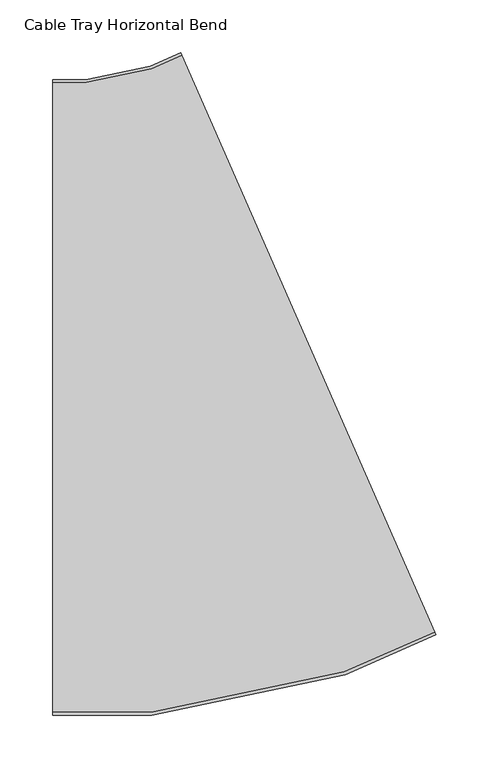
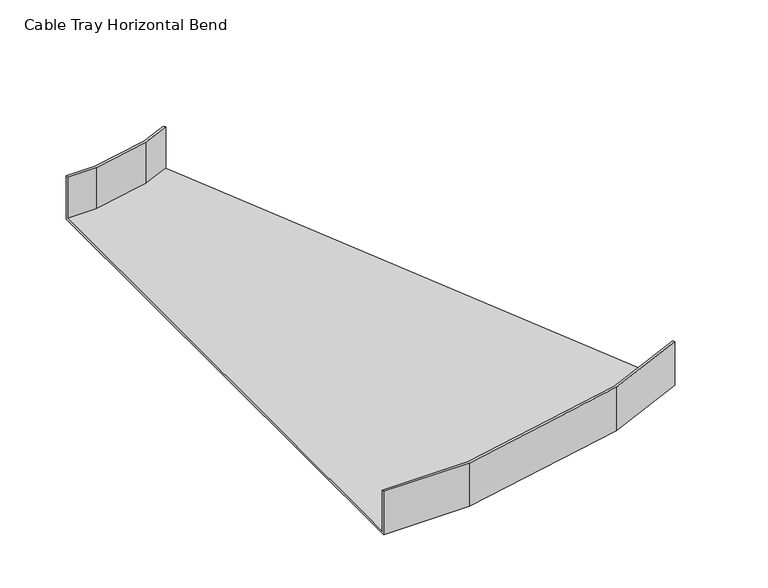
"""IFC4 building model written with IfcOpenShell, lengths in millimetres: cable carrier fitting geometry, Cable Tray Horizontal Bend : ELEC_SUB_CT_N2402."""

import ifcopenshell
import ifcopenshell.guid

model = None  # the IFC model being written
_history = None  # IfcOwnerHistory: only IFC2X3 demands one
_inside = {}  # id of a spatial element -> (the spatial element, [elements in it])
_under = {}  # id of a project, library or spatial element -> (it, [spatial elements below it])
_declared = {}  # id of a project -> (the project, [libraries it declares])
_typed = {}  # id of a type object -> (the type object, [elements of that type])
_made_of = {}  # id of a material, layer set ... -> (it, [elements and type objects made of it])


def new_model(schema):
    """Start an empty IFC model of exactly this schema.

    Asked for "IFC4X3", IfcOpenShell would pick the latest addendum, in which some entities
    have other attributes; the version numbers below select the first issue.
    IFC2X3 requires an IfcOwnerHistory on every rooted entity: one is made here for all.
    """
    global model, _history
    if schema == "IFC4X3":
        model = ifcopenshell.file(schema_version=(4, 3, 0, 0))
    else:
        model = ifcopenshell.file(schema=schema)
    _inside.clear()
    _under.clear()
    _declared.clear()
    _typed.clear()
    _made_of.clear()
    _history = None
    if model.schema == "IFC2X3":
        org = make("IfcOrganization", Name="unknown")
        user = make(
            "IfcPersonAndOrganization",
            ThePerson=make("IfcPerson", FamilyName="unknown"),
            TheOrganization=org,
        )
        app = make(
            "IfcApplication",
            ApplicationDeveloper=org,
            Version="unknown",
            ApplicationFullName="unknown",
            ApplicationIdentifier="unknown",
        )
        _history = make(
            "IfcOwnerHistory",
            OwningUser=user,
            OwningApplication=app,
            ChangeAction="ADDED",
            CreationDate=0,
        )
    return model


def make(cls, **values):
    """One entity of the class cls with the attributes given. An attribute that is None is left unset."""
    return model.create_entity(
        cls, **{name: value for name, value in values.items() if value is not None}
    )


def rooted(cls, **values):
    """An entity with a GlobalId (a new one), such as an element, a storey or a relation."""
    return make(cls, GlobalId=ifcopenshell.guid.new(), OwnerHistory=_history, **values)


def si_unit(unit_type, name, prefix=None):
    """IfcSIUnit, for example si_unit("LENGTHUNIT", "METRE", prefix="MILLI")."""
    return make("IfcSIUnit", UnitType=unit_type, Prefix=prefix, Name=name)


def assignment(units):
    """IfcUnitAssignment: the units of a project."""
    return None if units is None else make("IfcUnitAssignment", Units=units)


def point(xyz):
    """IfcCartesianPoint."""
    return None if xyz is None else make("IfcCartesianPoint", Coordinates=xyz)


def direction(xyz):
    """IfcDirection."""
    return None if xyz is None else make("IfcDirection", DirectionRatios=xyz)


def frame(location, z_axis=None, x_axis=None):
    """IfcAxis2Placement3D, a coordinate frame: its origin and axes. An axis left out is left unset."""
    return make(
        "IfcAxis2Placement3D",
        Location=point(location),
        Axis=direction(z_axis),
        RefDirection=direction(x_axis),
    )


def origin():
    """The frame at (0, 0, 0) with its axes left unset."""
    return frame((0.0, 0.0, 0.0))


def place(relative_to, where):
    """IfcLocalPlacement: puts the frame where relative to a parent placement (None: the world)."""
    return make(
        "IfcLocalPlacement", PlacementRelTo=relative_to, RelativePlacement=where
    )


def context(
    kind, dimensions, precision=None, world=None, true_north=None, identifier=None
):
    """IfcGeometricRepresentationContext, for example the 3D "Model" context."""
    return make(
        "IfcGeometricRepresentationContext",
        ContextIdentifier=identifier,
        ContextType=kind,
        CoordinateSpaceDimension=dimensions,
        Precision=precision,
        WorldCoordinateSystem=world,
        TrueNorth=true_north,
    )


def project(units=None, contexts=None):
    """IfcProject with its units and contexts."""
    return rooted(
        "IfcProject",
        Name="project",
        RepresentationContexts=contexts,
        UnitsInContext=assignment(units),
    )


def spatial(cls, under=None, at=None, **own):
    """A site, building, storey or space (cls), placed at a placement, below another one or the project."""
    s = rooted(cls, ObjectPlacement=at, **own)
    if under is not None:
        _under.setdefault(under.id(), (under, []))[1].append(s)
    return s


def faces_of(points, faces, orient=None, outer=None):
    """IfcFace entities. A face is a list of loops; a loop is a list of indices into points, from 0.

    orient and outer hold one flag for each loop. By default every Orientation is true, the
    first loop of a face is its IfcFaceOuterBound and the others are IfcFaceBound.
    """
    made = []
    for i, loops in enumerate(faces):
        bounds = []
        for j, loop in enumerate(loops):
            is_outer = j == 0 if outer is None else outer[i][j]
            bounds.append(
                make(
                    "IfcFaceOuterBound" if is_outer else "IfcFaceBound",
                    Bound=make("IfcPolyLoop", Polygon=[points[k] for k in loop]),
                    Orientation=True if orient is None else orient[i][j],
                )
            )
        made.append(make("IfcFace", Bounds=bounds))
    return made


def faceted_brep(points, faces, orient=None, outer=None, voids=None):
    """IfcFacetedBrep: a solid bounded by flat faces; with voids (closed shells), ...WithVoids."""
    shared = [point(p) for p in points]
    hull = make("IfcClosedShell", CfsFaces=faces_of(shared, faces, orient, outer))
    if voids is None:
        return make("IfcFacetedBrep", Outer=hull)
    return make(
        "IfcFacetedBrepWithVoids",
        Outer=hull,
        Voids=[
            make(cls, CfsFaces=faces_of(shared, fs, o, b)) for cls, fs, o, b in voids
        ],
    )


def shape(context_of_items, identifier, shape_type, items):
    """IfcShapeRepresentation: the items that make up one representation, for example the "Body"."""
    return make(
        "IfcShapeRepresentation",
        ContextOfItems=context_of_items,
        RepresentationIdentifier=identifier,
        RepresentationType=shape_type,
        Items=items,
    )


def source(mapping_origin, context_of_items, identifier, shape_type, items):
    """IfcRepresentationMap: a shape defined once, which mapped items show again and again."""
    return make(
        "IfcRepresentationMap",
        MappingOrigin=mapping_origin,
        MappedRepresentation=shape(context_of_items, identifier, shape_type, items),
    )


def transform(
    local_origin,
    x_axis=None,
    y_axis=None,
    z_axis=None,
    scale=None,
    scale2=None,
    scale3=None,
    uniform=True,
):
    """IfcCartesianTransformationOperator3D, or its non-uniform kind. x_axis, y_axis, z_axis: its Axis1, 2, 3."""
    if uniform:
        return make(
            "IfcCartesianTransformationOperator3D",
            Axis1=direction(x_axis),
            Axis2=direction(y_axis),
            LocalOrigin=point(local_origin),
            Scale=scale,
            Axis3=direction(z_axis),
        )
    return make(
        "IfcCartesianTransformationOperator3DnonUniform",
        Axis1=direction(x_axis),
        Axis2=direction(y_axis),
        LocalOrigin=point(local_origin),
        Scale=scale,
        Axis3=direction(z_axis),
        Scale2=scale2,
        Scale3=scale3,
    )


def mapped(mapping_source, mapping_target):
    """IfcMappedItem: shows the shape of a source again, moved by a transform."""
    return make(
        "IfcMappedItem", MappingSource=mapping_source, MappingTarget=mapping_target
    )


def made_of(thing, what):
    """Note that an element or type object is made of a material, layer set ...; save() writes the relation."""
    if what is not None:
        _made_of.setdefault(what.id(), (what, []))[1].append(thing)
    return thing


def element(
    cls,
    number,
    at=None,
    inside=None,
    cuts=None,
    type_object=None,
    material=None,
    context=None,
    identifier="Body",
    shape_type=None,
    held_by="IfcProductDefinitionShape",
    body=None,
    shapes=None,
    **own,
):
    """One element of the class cls, such as IfcWall. Its Tag is "e" and its number.

    at: its placement. inside: the storey or other place that contains it. cuts: it is an
    opening in that element (IfcRelVoidsElement). A single representation is given by context,
    identifier, shape_type and body (its items); several are given by shapes. held_by: the class
    of the entity that holds the representations. save() writes the other relations.
    """
    e = rooted(cls, Tag="e%d" % number, ObjectPlacement=at, **own)
    if body is not None:
        shapes = [shape(context, identifier, shape_type, body)]
    if shapes is not None:
        e.Representation = make(held_by, Representations=shapes)
    if inside is not None:
        _inside.setdefault(inside.id(), (inside, []))[1].append(e)
    if cuts is not None:
        rooted(
            "IfcRelVoidsElement", RelatingBuildingElement=cuts, RelatedOpeningElement=e
        )
    if type_object is not None:
        _typed.setdefault(type_object.id(), (type_object, []))[1].append(e)
    return made_of(e, material)


def aggregate(whole, parts):
    """IfcRelAggregates: a whole, such as a stair, and the parts it consists of."""
    return rooted("IfcRelAggregates", RelatingObject=whole, RelatedObjects=parts)


def save(model, path):
    """Write the relations noted so far, then the file.

    IfcRelAggregates (storeys below a building ...), IfcRelContainedInSpatialStructure (elements
    in a storey), IfcRelDefinesByType, IfcRelAssociatesMaterial and IfcRelDeclares: one each for
    every whole, place, type object, material and project.
    """
    for whole, parts in _under.values():
        aggregate(whole, parts)
    for where, things in _inside.values():
        rooted(
            "IfcRelContainedInSpatialStructure",
            RelatedElements=things,
            RelatingStructure=where,
        )
    for kind, things in _typed.values():
        rooted("IfcRelDefinesByType", RelatedObjects=things, RelatingType=kind)
    for what, things in _made_of.values():
        rooted("IfcRelAssociatesMaterial", RelatedObjects=things, RelatingMaterial=what)
    for by, libraries in _declared.values():
        rooted("IfcRelDeclares", RelatingContext=by, RelatedDefinitions=libraries)
    model.write(path)


def cable_tray_horizontal_bend_5669cde8(model_context):
    return source(origin(), model_context, "Body", "Brep", [
        faceted_brep([(-125.749013, -300.0, -25.0), (-125.749013, -300.0, 25.0), (-125.749013, -297.46, 25.0), (-125.749013, -297.46, -22.46), (-125.749013, 297.46, -22.46), (-125.749013, 297.46, 25.0), (-125.749013, 300.0, 25.0), (-125.749013, 300.0, -25.0), (235.6248648, -224.2626526, -25.0), (-5.2910537, 325.2457825, -25.0), (-5.2910537, 325.2457825, 25.0), (-4.2711763, 322.9195301, 25.0), (-4.2711763, 322.9195301, -22.46), (234.6049874, -221.9364002, -22.46), (234.6049874, -221.9364002, 25.0), (235.6248648, -224.2626526, 25.0), (-32.4507627, -300.0, -25.0), (-32.4507627, -300.0, 25.0), (150.1779057, -261.7243754, 25.0), (149.3991786, -259.2923977, 25.0), (-32.7140711, -297.46, 25.0), (-32.7140711, -297.46, -22.46), (149.3991786, -259.2923977, -22.46), (-32.9946463, 310.3265639, -22.46), (-94.3862878, 297.46, -22.46), (-94.3862878, 297.46, 25.0), (-32.9946463, 310.3265639, 25.0), (-33.7733734, 312.7585415, 25.0), (-94.6495962, 300.0, 25.0), (-94.6495962, 300.0, -25.0), (-33.7733734, 312.7585415, -25.0), (150.1779057, -261.7243754, -25.0)], [[[0, 1, 2, 3, 4, 5, 6, 7]], [[8, 9, 10, 11, 12, 13, 14, 15]], [[1, 0, 16, 17]], [[2, 1, 17, 18, 15, 14, 19, 20]], [[3, 2, 20, 21]], [[4, 3, 21, 22, 13, 12, 23, 24]], [[5, 4, 24, 25]], [[6, 5, 25, 26, 11, 10, 27, 28]], [[7, 6, 28, 29]], [[0, 7, 29, 30, 9, 8, 31, 16]], [[17, 16, 31, 18]], [[21, 20, 19, 22]], [[25, 24, 23, 26]], [[29, 28, 27, 30]], [[18, 31, 8, 15]], [[22, 19, 14, 13]], [[26, 23, 12, 11]], [[30, 27, 10, 9]]]),
    ])


if __name__ == "__main__":
    model = new_model("IFC4")
    model_context = context("Model", 3, world=origin())
    ifc_project = project(units=[si_unit("LENGTHUNIT", "METRE", prefix="MILLI")], contexts=[model_context])
    site = spatial("IfcSite", under=ifc_project)
    building = spatial("IfcBuilding", under=site)
    placement = place(None, origin())
    cable_tray_horizontal_bend_shape = cable_tray_horizontal_bend_5669cde8(model_context)
    element("IfcCableCarrierFitting", 1, ObjectType="Cable Tray Horizontal Bend : ELEC_SUB_CT_N2402", at=placement, inside=building, context=model_context, shape_type="MappedRepresentation", body=[
        mapped(cable_tray_horizontal_bend_shape, transform((0.0, 0.0, 0.0), x_axis=(1.0, 0.0, 0.0), y_axis=(0.0, 1.0, 0.0), z_axis=(0.0, 0.0, 1.0))),
    ])
    save(model, "model.ifc")
